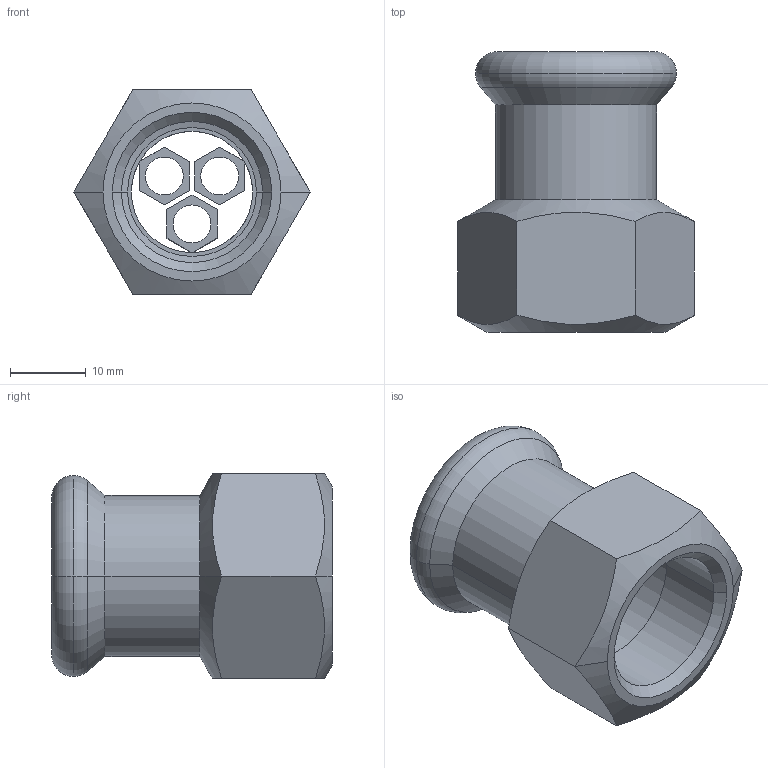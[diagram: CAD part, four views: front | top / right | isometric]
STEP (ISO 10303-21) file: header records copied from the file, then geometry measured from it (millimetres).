
FILE_DESCRIPTION(('OneSpaceDesigner STEP Export'),'2;1');
FILE_NAME('R2702 18xRp1-2.stp','2010-06-08T13:54:40',(''),(''),'OneSpace Designer STEP processor for AP214 (Solid Model)','OneSpace Modeling 15.00A 14-Mar-2007 (C) CoCreate Software GmbH','');
FILE_SCHEMA(('AUTOMOTIVE_DESIGN { 1 0 10303 214 1 1 1 1 }'));
Length unit declared in the file: millimetre
Products named in the file (2): R2702_18xRp1-2
Assembly tree (1 placements, depth 2):
  R2702_18xRp1-2
    R2702_18xRp1-2
Bounding box: 31.18 x 37 x 27 mm (x, y, z)
Volume: 8242.1 mm3; surface area: 6280.4 mm2
Topology: 1 solids, 1 shells, 73 faces, 184 edges, 115 vertices
Faces by surface type: plane 34, cylinder 21, cone 14, torus 4
Entity records: 2868 total; most frequent: CARTESIAN_POINT 1222, ORIENTED_EDGE 368, DIRECTION 283, EDGE_CURVE 184, VERTEX_POINT 115, VECTOR 107, LINE 107, AXIS2_PLACEMENT_3D 88
